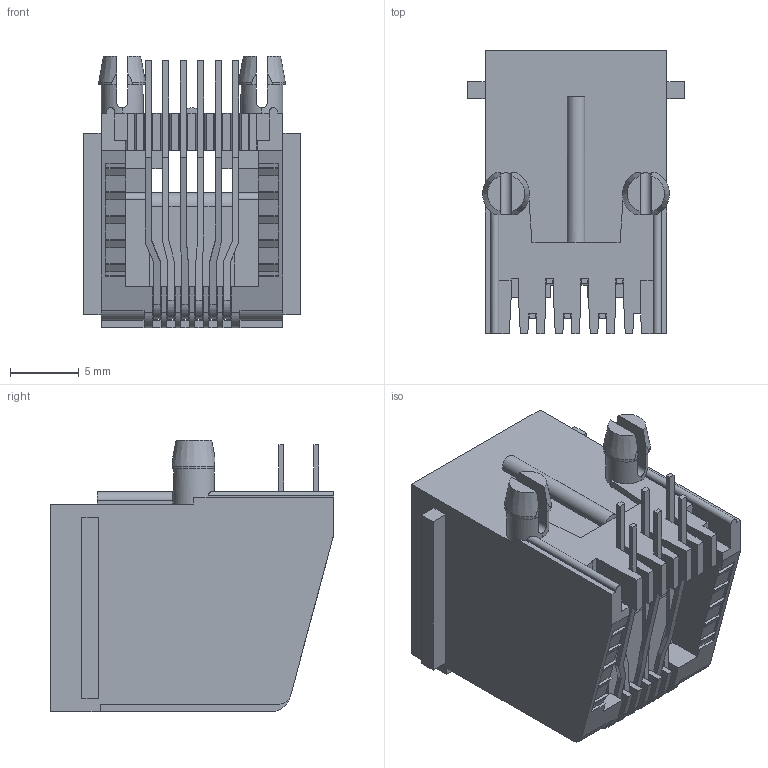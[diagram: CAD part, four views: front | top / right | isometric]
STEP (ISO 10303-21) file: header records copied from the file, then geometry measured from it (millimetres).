
FILE_DESCRIPTION((''),'2;1');
FILE_NAME('5721-6P6C-E','2019-07-25T09:55:33',('RD002'),(''),'CREO PARAMETRIC BY PTC INC, 2018260','CREO PARAMETRIC BY PTC INC, 2018260','');
FILE_SCHEMA(('CONFIG_CONTROL_DESIGN','GEOMETRIC_VALIDATION_PROPERTIES_MIM'));
Length unit declared in the file: millimetre
Products named in the file (1): 5721-6P6C-E
Bounding box: 15.75 x 20.6 x 19.75 mm (x, y, z)
Volume: 2131.4 mm3; surface area: 3362 mm2
Topology: 1 solids, 1 shells, 526 faces, 1543 edges, 998 vertices
Faces by surface type: plane 439, cylinder 83, cone 4
Entity records: 20265 total; most frequent: CARTESIAN_POINT 3335, ORIENTED_EDGE 3086, DIRECTION 2706, EDGE_CURVE 1543, VECTOR 1352, LINE 1352, VERTEX_POINT 998, AXIS2_PLACEMENT_3D 677
